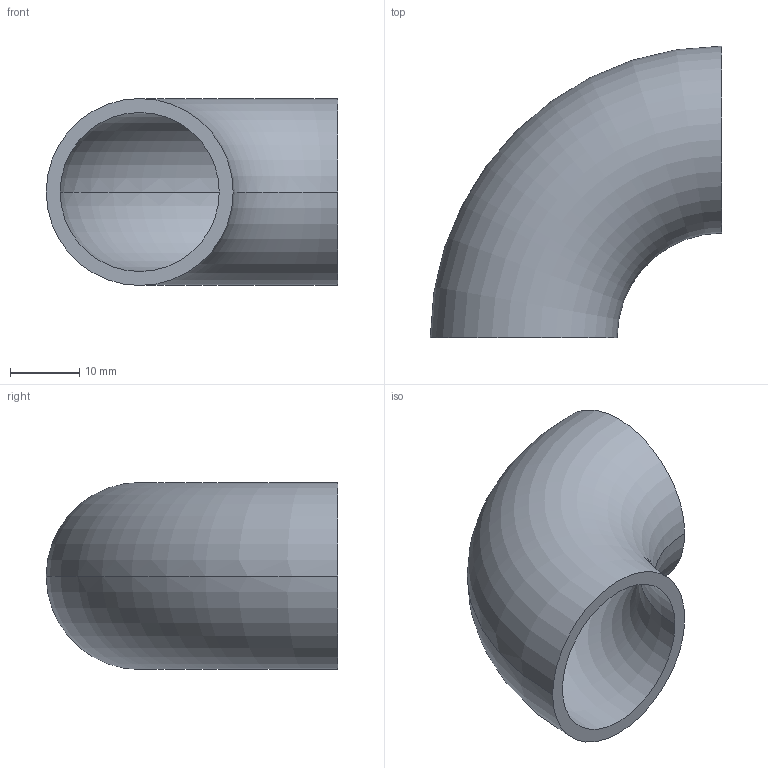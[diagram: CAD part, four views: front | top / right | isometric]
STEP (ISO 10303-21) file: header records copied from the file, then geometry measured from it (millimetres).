
FILE_DESCRIPTION (( 'STEP AP203' ), '1' );
FILE_NAME ('OT200-20-26_9x2_OSTP.step', '2020-12-16T01:37:42', ( '' ), ( '' ), 'SwSTEP 2.0', 'SolidWorks 2014', '' );
FILE_SCHEMA (( 'CONFIG_CONTROL_DESIGN' ));
Length unit declared in the file: millimetre
Products named in the file (1): OT200-20-26_9x2_OSTP
Bounding box: 41.95 x 41.95 x 26.9 mm (x, y, z)
Volume: 7004 mm3; surface area: 7316.9 mm2
Topology: 1 solids, 1 shells, 6 faces, 12 edges, 8 vertices
Faces by surface type: torus 4, plane 2
Entity records: 249 total; most frequent: DIRECTION 38, CARTESIAN_POINT 27, ORIENTED_EDGE 24, AXIS2_PLACEMENT_3D 19, EDGE_CURVE 12, CIRCLE 12, EDGE_LOOP 8, VERTEX_POINT 8
